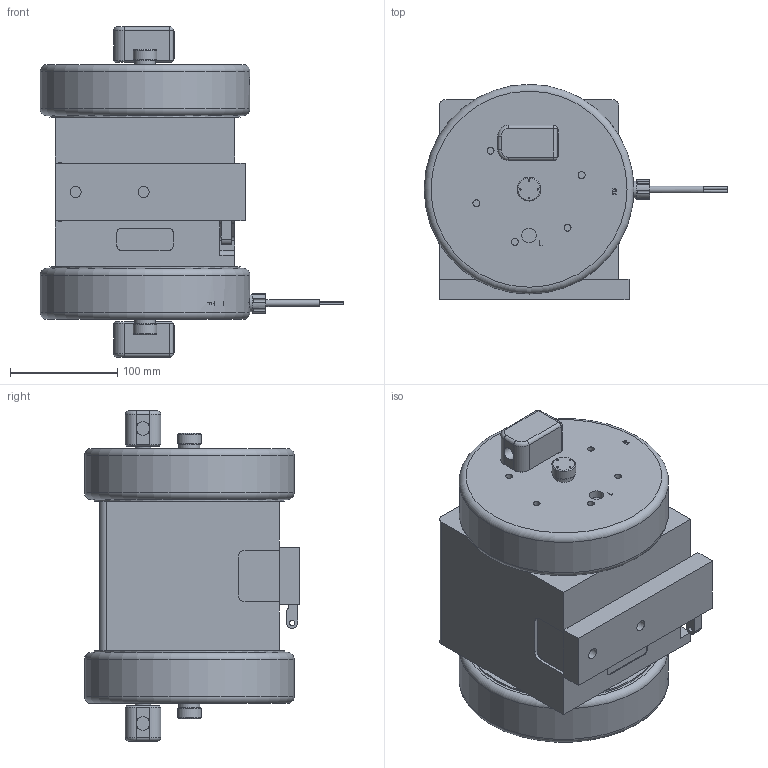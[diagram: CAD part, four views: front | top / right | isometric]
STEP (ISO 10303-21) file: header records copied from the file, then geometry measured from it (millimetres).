
FILE_DESCRIPTION (( 'STEP AP214' ), '1' );
FILE_NAME ('PFU060_solid model.STEP', '2013-07-25T15:42:27', ( '' ), ( '' ), 'SwSTEP 2.0', 'SolidWorks 2012', '' );
FILE_SCHEMA (( 'AUTOMOTIVE_DESIGN' ));
Length unit declared in the file: inch
Products named in the file (1): PFU060_solid model
Bounding box: 283.21 x 200.58 x 308.11 mm (x, y, z)
Volume: 7040286.7 mm3; surface area: 278171.9 mm2
Topology: 1 solids, 1 shells, 1077 faces, 2717 edges, 1788 vertices
Faces by surface type: plane 790, cylinder 131, bspline 120, cone 24, torus 8, sphere 4
Full cylindrical faces by diameter (mm): 1.6 x8, 2.362 x2, 3.251 x16, 3.302 x4, 4.445 x1, 4.902 x1, 6.35 x1, 6.528 x10, 10.312 x2, 12.725 x2, 13.554 x2, 14.656 x2, 15.875 x2, 18.542 x1, 19.475 x2, 19.923 x1, 20.876 x1, 22.225 x2, 25.19 x2, 31.75 x2, 50.216 x1, 177.648 x2, 195.58 x2
Entity records: 38724 total; most frequent: CARTESIAN_POINT 12950, ORIENTED_EDGE 5232, DIRECTION 4639, EDGE_CURVE 2616, VECTOR 2003, LINE 2003, VERTEX_POINT 1770, AXIS2_PLACEMENT_3D 1318
